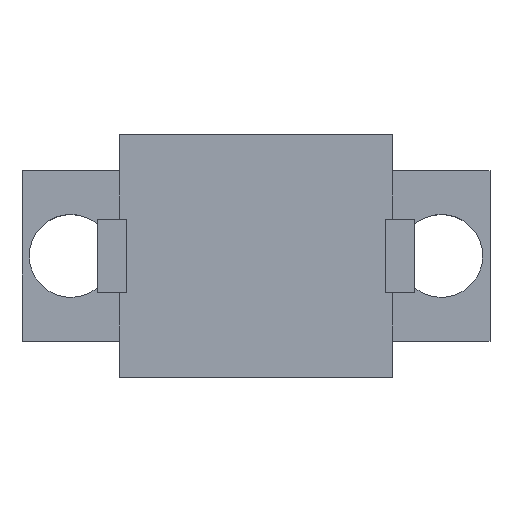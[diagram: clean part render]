
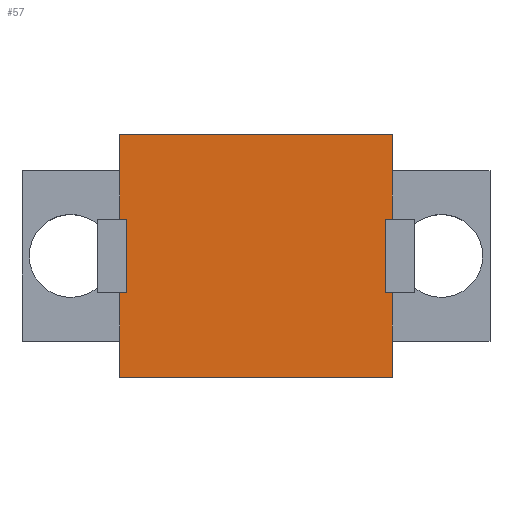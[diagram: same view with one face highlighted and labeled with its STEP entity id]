
A CAD part, top view. The second image highlights one B-rep face of the part: STEP entity #57.
In plain terms, the highlighted planar face has unit normal (0, 0, 1).
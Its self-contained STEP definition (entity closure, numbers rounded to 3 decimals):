
#21 = EDGE_CURVE('',#22,#24,#26,.T.);
#22 = VERTEX_POINT('',#23);
#23 = CARTESIAN_POINT('',(-43.225,7.9,21.725));
#24 = VERTEX_POINT('',#25);
#25 = CARTESIAN_POINT('',(-43.225,9.4,21.725));
#26 = LINE('',#27,#28);
#27 = CARTESIAN_POINT('',(-43.225,7.9,21.725));
#28 = VECTOR('',#29,1.);
#29 = DIRECTION('',(0.,1.,0.));
#57 = ADVANCED_FACE('',(#58),#179,.T.);
#58 = FACE_BOUND('',#59,.T.);
#59 = EDGE_LOOP('',(#60,#61,#69,#77,#85,#93,#101,#109,#117,#125,#133,
    #141,#149,#157,#165,#173));
#60 = ORIENTED_EDGE('',*,*,#21,.F.);
#61 = ORIENTED_EDGE('',*,*,#62,.T.);
#62 = EDGE_CURVE('',#22,#63,#65,.T.);
#63 = VERTEX_POINT('',#64);
#64 = CARTESIAN_POINT('',(-32.025,7.9,21.725));
#65 = LINE('',#66,#67);
#66 = CARTESIAN_POINT('',(-43.225,7.9,21.725));
#67 = VECTOR('',#68,1.);
#68 = DIRECTION('',(1.,0.,0.));
#69 = ORIENTED_EDGE('',*,*,#70,.T.);
#70 = EDGE_CURVE('',#63,#71,#73,.T.);
#71 = VERTEX_POINT('',#72);
#72 = CARTESIAN_POINT('',(-32.025,9.4,21.725));
#73 = LINE('',#74,#75);
#74 = CARTESIAN_POINT('',(-32.025,7.9,21.725));
#75 = VECTOR('',#76,1.);
#76 = DIRECTION('',(0.,1.,0.));
#77 = ORIENTED_EDGE('',*,*,#78,.T.);
#78 = EDGE_CURVE('',#71,#79,#81,.T.);
#79 = VERTEX_POINT('',#80);
#80 = CARTESIAN_POINT('',(-32.025,11.4,21.725));
#81 = LINE('',#82,#83);
#82 = CARTESIAN_POINT('',(-32.025,7.9,21.725));
#83 = VECTOR('',#84,1.);
#84 = DIRECTION('',(0.,1.,0.));
#85 = ORIENTED_EDGE('',*,*,#86,.T.);
#86 = EDGE_CURVE('',#79,#87,#89,.T.);
#87 = VERTEX_POINT('',#88);
#88 = CARTESIAN_POINT('',(-32.325,11.4,21.725));
#89 = LINE('',#90,#91);
#90 = CARTESIAN_POINT('',(-37.775,11.4,21.725));
#91 = VECTOR('',#92,1.);
#92 = DIRECTION('',(-1.,0.,0.));
#93 = ORIENTED_EDGE('',*,*,#94,.T.);
#94 = EDGE_CURVE('',#87,#95,#97,.T.);
#95 = VERTEX_POINT('',#96);
#96 = CARTESIAN_POINT('',(-32.325,14.4,21.725));
#97 = LINE('',#98,#99);
#98 = CARTESIAN_POINT('',(-32.325,9.65,21.725));
#99 = VECTOR('',#100,1.);
#100 = DIRECTION('',(0.,1.,0.));
#101 = ORIENTED_EDGE('',*,*,#102,.F.);
#102 = EDGE_CURVE('',#103,#95,#105,.T.);
#103 = VERTEX_POINT('',#104);
#104 = CARTESIAN_POINT('',(-32.025,14.4,21.725));
#105 = LINE('',#106,#107);
#106 = CARTESIAN_POINT('',(-37.775,14.4,21.725));
#107 = VECTOR('',#108,1.);
#108 = DIRECTION('',(-1.,0.,0.));
#109 = ORIENTED_EDGE('',*,*,#110,.T.);
#110 = EDGE_CURVE('',#103,#111,#113,.T.);
#111 = VERTEX_POINT('',#112);
#112 = CARTESIAN_POINT('',(-32.025,16.4,21.725));
#113 = LINE('',#114,#115);
#114 = CARTESIAN_POINT('',(-32.025,7.9,21.725));
#115 = VECTOR('',#116,1.);
#116 = DIRECTION('',(0.,1.,0.));
#117 = ORIENTED_EDGE('',*,*,#118,.T.);
#118 = EDGE_CURVE('',#111,#119,#121,.T.);
#119 = VERTEX_POINT('',#120);
#120 = CARTESIAN_POINT('',(-32.025,17.9,21.725));
#121 = LINE('',#122,#123);
#122 = CARTESIAN_POINT('',(-32.025,7.9,21.725));
#123 = VECTOR('',#124,1.);
#124 = DIRECTION('',(0.,1.,0.));
#125 = ORIENTED_EDGE('',*,*,#126,.F.);
#126 = EDGE_CURVE('',#127,#119,#129,.T.);
#127 = VERTEX_POINT('',#128);
#128 = CARTESIAN_POINT('',(-43.225,17.9,21.725));
#129 = LINE('',#130,#131);
#130 = CARTESIAN_POINT('',(-43.225,17.9,21.725));
#131 = VECTOR('',#132,1.);
#132 = DIRECTION('',(1.,0.,0.));
#133 = ORIENTED_EDGE('',*,*,#134,.F.);
#134 = EDGE_CURVE('',#135,#127,#137,.T.);
#135 = VERTEX_POINT('',#136);
#136 = CARTESIAN_POINT('',(-43.225,16.4,21.725));
#137 = LINE('',#138,#139);
#138 = CARTESIAN_POINT('',(-43.225,7.9,21.725));
#139 = VECTOR('',#140,1.);
#140 = DIRECTION('',(0.,1.,0.));
#141 = ORIENTED_EDGE('',*,*,#142,.F.);
#142 = EDGE_CURVE('',#143,#135,#145,.T.);
#143 = VERTEX_POINT('',#144);
#144 = CARTESIAN_POINT('',(-43.225,14.4,21.725));
#145 = LINE('',#146,#147);
#146 = CARTESIAN_POINT('',(-43.225,7.9,21.725));
#147 = VECTOR('',#148,1.);
#148 = DIRECTION('',(0.,1.,0.));
#149 = ORIENTED_EDGE('',*,*,#150,.F.);
#150 = EDGE_CURVE('',#151,#143,#153,.T.);
#151 = VERTEX_POINT('',#152);
#152 = CARTESIAN_POINT('',(-42.925,14.4,21.725));
#153 = LINE('',#154,#155);
#154 = CARTESIAN_POINT('',(-43.675,14.4,21.725));
#155 = VECTOR('',#156,1.);
#156 = DIRECTION('',(-1.,0.,0.));
#157 = ORIENTED_EDGE('',*,*,#158,.F.);
#158 = EDGE_CURVE('',#159,#151,#161,.T.);
#159 = VERTEX_POINT('',#160);
#160 = CARTESIAN_POINT('',(-42.925,11.4,21.725));
#161 = LINE('',#162,#163);
#162 = CARTESIAN_POINT('',(-42.925,9.65,21.725));
#163 = VECTOR('',#164,1.);
#164 = DIRECTION('',(0.,1.,0.));
#165 = ORIENTED_EDGE('',*,*,#166,.T.);
#166 = EDGE_CURVE('',#159,#167,#169,.T.);
#167 = VERTEX_POINT('',#168);
#168 = CARTESIAN_POINT('',(-43.225,11.4,21.725));
#169 = LINE('',#170,#171);
#170 = CARTESIAN_POINT('',(-43.675,11.4,21.725));
#171 = VECTOR('',#172,1.);
#172 = DIRECTION('',(-1.,0.,0.));
#173 = ORIENTED_EDGE('',*,*,#174,.F.);
#174 = EDGE_CURVE('',#24,#167,#175,.T.);
#175 = LINE('',#176,#177);
#176 = CARTESIAN_POINT('',(-43.225,7.9,21.725));
#177 = VECTOR('',#178,1.);
#178 = DIRECTION('',(0.,1.,0.));
#179 = PLANE('',#180);
#180 = AXIS2_PLACEMENT_3D('',#181,#182,#183);
#181 = CARTESIAN_POINT('',(-43.225,7.9,21.725));
#182 = DIRECTION('',(0.,0.,1.));
#183 = DIRECTION('',(1.,0.,0.));
